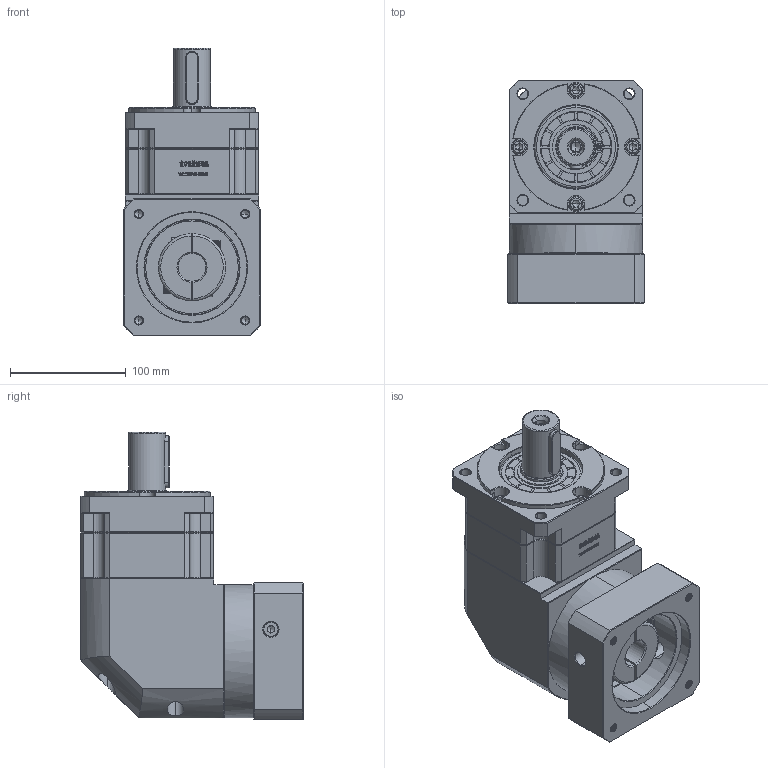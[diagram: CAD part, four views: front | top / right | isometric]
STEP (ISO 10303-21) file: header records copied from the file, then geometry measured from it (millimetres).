
FILE_DESCRIPTION (( 'STEP AP214' ), '1' );
FILE_NAME ('ZBR115A-D32-L1-24-95-130-M8.step', '2023-03-03T05:01:03', ( '' ), ( 'Microsoft' ), 'SwSTEP 2.0', 'SolidWorks 2016', '' );
FILE_SCHEMA (( 'AUTOMOTIVE_DESIGN' ));
Length unit declared in the file: millimetre
Products named in the file (1): ZBR115A-D32-L1-24-95-130-M8
Bounding box: 118 x 192.4 x 248 mm (x, y, z)
Volume: 2973704.9 mm3; surface area: 247608.3 mm2
Topology: 6 solids, 6 shells, 2982 faces, 7923 edges, 5087 vertices
Faces by surface type: plane 1559, bspline 606, cylinder 439, cone 370, torus 8
Entity records: 162116 total; most frequent: CARTESIAN_POINT 60064, ORIENTED_EDGE 15786, DIRECTION 11958, EDGE_CURVE 7893, LINE 5308, VECTOR 5308, VERTEX_POINT 5087, AXIS2_PLACEMENT_3D 3325
